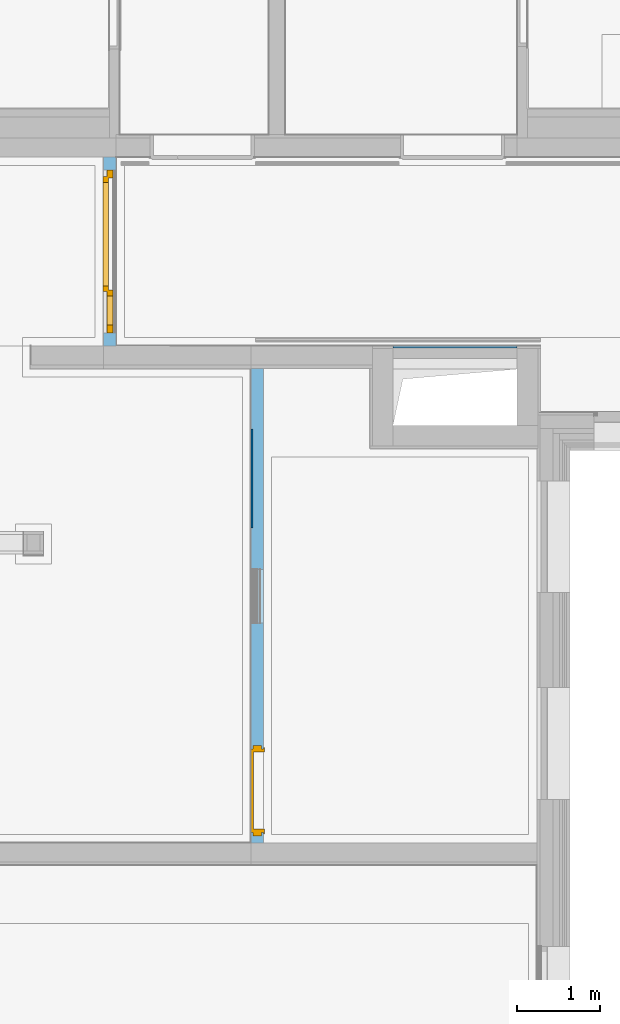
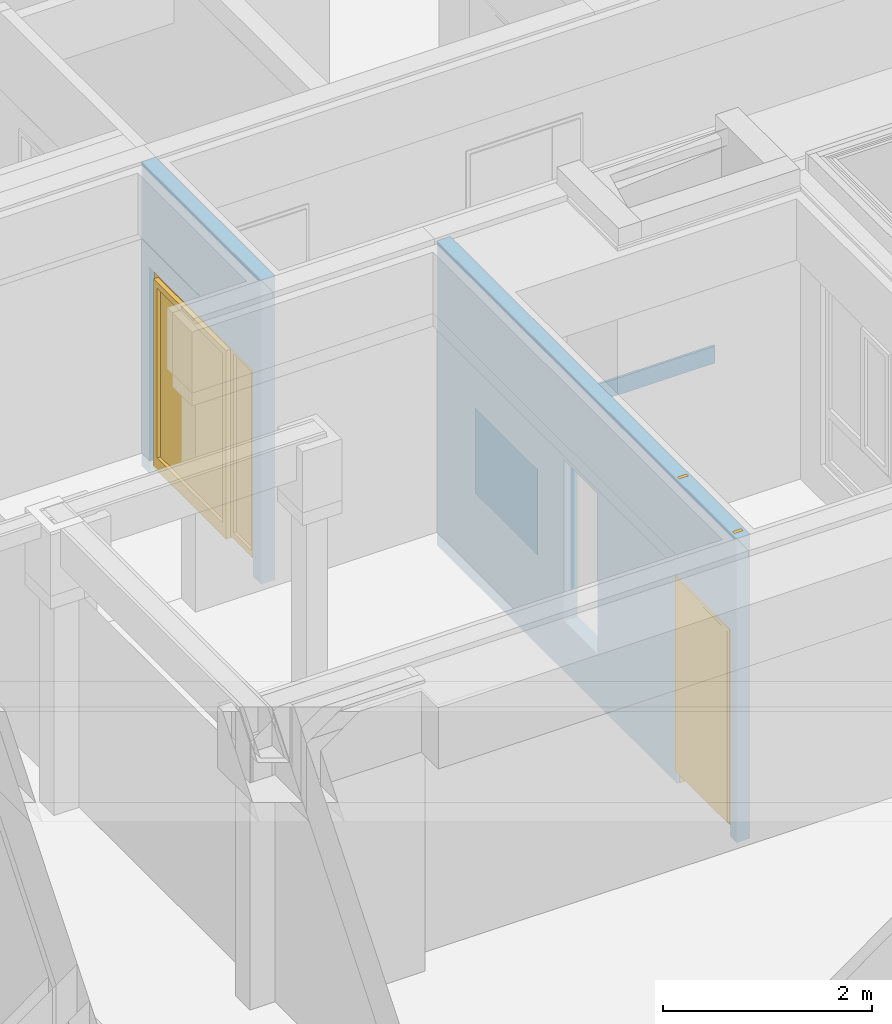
# One storey, part 123 of 222: 2 doors, 2 walls, 3 openings, plus 2 elements that do not belong to this part.
"""IFC4 building model written with IfcOpenShell, lengths in metres."""

from ifc_helpers import new_model, entity, si_unit, converted_unit, derived_unit, frame, frame_2d, origin, origin_with_axes, place, context, subcontext, project, spatial, polyline, rectangle, outline, extrude, closed_shell, open_shell, faceted_brep, surface_model, source, transform, mapped, material, type_object, element, fill, save


model = new_model("IFC4")

# Units and contexts
model_context = context("Model", 3, precision=1e-05, world=origin())
body_context = subcontext(model_context, "Body", "Model", "MODEL_VIEW")
ifc_project = project(units=[si_unit("LENGTHUNIT", "METRE"), si_unit("AREAUNIT", "SQUARE_METRE"), si_unit("VOLUMEUNIT", "CUBIC_METRE"), si_unit("MASSUNIT", "GRAM", prefix="KILO"), converted_unit("PLANEANGLEUNIT", "DEGREE", entity("IfcPlaneAngleMeasure", 0.0174532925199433), si_unit("PLANEANGLEUNIT", "RADIAN"), dimensions=[0, 0, 0, 0, 0, 0, 0]), derived_unit("THERMALTRANSMITTANCEUNIT", [(si_unit("POWERUNIT", "WATT"), 1), (si_unit("THERMODYNAMICTEMPERATUREUNIT", "KELVIN"), -1), (si_unit("LENGTHUNIT", "METRE"), -2)]), derived_unit("VOLUMETRICFLOWRATEUNIT", [(si_unit("LENGTHUNIT", "METRE"), 3), (converted_unit("TIMEUNIT", "hour", entity("IfcTimeMeasure", 3600.0), si_unit("TIMEUNIT", "SECOND"), dimensions=[0, 0, 1, 0, 0, 0, 0]), -1), (si_unit("LENGTHUNIT", "METRE"), -1)])], contexts=[model_context])

# Site, building, storey
site_placement = place(None, origin())
site = spatial("IfcSite", under=ifc_project, at=site_placement, Name="Psychiatrie Neubau Wunstorf", CompositionType="ELEMENT")
building_placement = place(site_placement, origin())
building = spatial("IfcBuilding", under=site, at=building_placement, Name="Neubau H2 Stationsgebäude", CompositionType="ELEMENT")
storey_placement = place(building_placement, frame((0.0, 0.0, 3.6)))
storey = spatial("IfcBuildingStorey", under=building, at=storey_placement, Name="H2 Ebene +1", CompositionType="ELEMENT", Elevation=3.6)

# Walls
wall_1_placement = place(storey_placement, frame((77.4, 22.8110009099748, 0.85)))
element("IfcWall", 1, at=wall_1_placement, inside=storey, Name="WV 1.1", context=body_context, shape_type="Brep", body=[
    faceted_brep([(0.0, 0.025, 0.0), (0.0, 0.0, 0.0), (1.5, 0.0, 0.0), (1.5, 0.025, 0.0), (0.0, 0.0, 0.2), (0.0, 0.025, 0.2), (1.5, 0.025, 0.2), (1.5, 0.0, 0.2)], [[[0, 1, 2, 3]], [[4, 5, 6, 7]], [[1, 0, 5, 4]], [[2, 1, 4, 7]], [[3, 2, 7, 6]], [[0, 3, 6, 5]]], orient=[[False], [False], [False], [False], [False], [False]]),
])
wall_2_placement = place(storey_placement, frame((75.684, 20.6340000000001, 1.05)))
element("IfcWall", 2, at=wall_2_placement, inside=storey, Name="WV 1.1", context=body_context, shape_type="Brep", body=[
    faceted_brep([(0.025, 1.2, 0.0), (0.0, 1.2, 0.0), (0.0, 0.0, 0.0), (0.025, 0.0, 0.0), (0.0, 1.2, 1.0), (0.025, 1.2, 1.0), (0.025, 0.0, 1.0), (0.0, 0.0, 1.0)], [[[0, 1, 2, 3]], [[4, 5, 6, 7]], [[1, 0, 5, 4]], [[2, 1, 4, 7]], [[3, 2, 7, 6]], [[0, 3, 6, 5]]], orient=[[False], [False], [False], [False], [False], [False]]),
])

# Wall, openings, door
ifc_material_1 = material(Name="WI-LB")
wall_3_placement = place(storey_placement, frame((75.684, 22.5640000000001, 0.0), z_axis=(0.0, 0.0, 1.0), x_axis=(0.0, -1.0, 0.0)))
wall_3 = element("IfcWall", 3, at=wall_3_placement, inside=storey, material=ifc_material_1, context=body_context, shape_type="SweptSolid", body=[
    extrude(rectangle(XDim=5.73150000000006, YDim=0.15, at=frame_2d((2.86575000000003, 0.075), x_axis=(1.0, 0.0))), origin_with_axes(), (0.0, 0.0, 1.0), 3.55),
])
opening_1_placement = place(wall_3_placement, frame((2.42720215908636, 0.0, 0.59), z_axis=(0.0, 1.0, 0.0), x_axis=(0.0, 0.0, 1.0)))
element("IfcOpeningElement", 4, at=opening_1_placement, cuts=wall_3, Name="Fensteröffnung", ObjectType="Opening", context=body_context, shape_type="SweptSolid", body=[
    extrude(outline(polyline([(1.88, 0.649942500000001), (1.88, 0.0), (0.0, 0.0), (0.0, 0.649942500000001), (1.88, 0.649942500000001)])), origin_with_axes(), (0.0, 0.0, 1.0), 0.15),
])
opening_2_placement = place(wall_3_placement, frame((4.59650000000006, 0.0, 0.0), z_axis=(0.0, 1.0, 0.0), x_axis=(0.0, 0.0, 1.0)))
opening_2 = element("IfcOpeningElement", 5, at=opening_2_placement, cuts=wall_3, Name="Türöffnung", ObjectType="Opening", context=body_context, shape_type="SweptSolid", body=[
    extrude(outline(polyline([(2.41, 1.01), (2.41, 0.0), (0.0, 0.0), (0.0, 1.01), (2.41, 1.01)])), origin_with_axes(), (0.0, 0.0, 1.0), 0.15),
])
ifc_material_2 = material(Name="TI-1F-UZ-ZK")
door_type = type_object("IfcDoorType", Name="SMT", OperationType="SINGLE_SWING_RIGHT", ParameterTakesPrecedence=False, PredefinedType="DOOR")
shared_shape_1 = source(origin_with_axes(), body_context, "Body", "Brep", [
    faceted_brep([(-0.03999999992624, 0.0250000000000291, 0.0), (0.0, 0.0250000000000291, 0.0), (0.0, 0.125000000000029, 0.0), (-0.03999999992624, 0.125000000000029, 0.0), (-0.03999999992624, 0.125000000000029, 3.55), (0.0, 0.125000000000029, 3.55), (0.0, 0.0250000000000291, 3.55), (-0.03999999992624, 0.0250000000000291, 3.55)], [[[0, 1, 2, 3]], [[4, 5, 6, 7]], [[3, 4, 7, 0]], [[2, 5, 4, 3]], [[1, 6, 5, 2]], [[0, 7, 6, 1]]], orient=[[False], [False], [False], [False], [False], [False]]),
    faceted_brep([(1.00999999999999, 0.0250000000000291, 0.0), (1.04999999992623, 0.0250000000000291, 0.0), (1.04999999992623, 0.125000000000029, 0.0), (1.00999999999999, 0.125000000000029, 0.0), (1.00999999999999, 0.125000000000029, 3.55), (1.04999999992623, 0.125000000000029, 3.55), (1.04999999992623, 0.0250000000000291, 3.55), (1.00999999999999, 0.0250000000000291, 3.55)], [[[0, 1, 2, 3]], [[4, 5, 6, 7]], [[3, 4, 7, 0]], [[2, 5, 4, 3]], [[1, 6, 5, 2]], [[0, 7, 6, 1]]], orient=[[False], [False], [False], [False], [False], [False]]),
    faceted_brep([(0.0, 0.0250000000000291, 2.41), (1.00999999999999, 0.0250000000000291, 2.41), (1.00999999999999, 0.125000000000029, 2.41), (0.0, 0.125000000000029, 2.41), (0.0, 0.125000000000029, 2.45), (1.00999999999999, 0.125000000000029, 2.45), (1.00999999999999, 0.0250000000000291, 2.45), (0.0, 0.0250000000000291, 2.45)], [[[0, 1, 2, 3]], [[4, 5, 6, 7]], [[3, 4, 7, 0]], [[2, 5, 4, 3]], [[1, 6, 5, 2]], [[0, 7, 6, 1]]], orient=[[False], [False], [False], [False], [False], [False]]),
])
shared_shape_2 = source(origin_with_axes(), body_context, "Body", "Brep", [
    faceted_brep([(0.0, -0.0149999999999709, 2.41), (0.0399999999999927, -0.0149999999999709, 2.41), (0.0399999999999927, -0.0149999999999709, 0.15), (0.0, -0.0149999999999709, 0.15), (0.0, 0.165000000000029, 0.15), (0.0399999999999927, 0.165000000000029, 0.15), (0.0399999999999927, 0.165000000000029, 2.41), (0.0, 0.165000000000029, 2.41)], [[[0, 1, 2, 3]], [[4, 5, 6, 7]], [[3, 4, 7, 0]], [[2, 5, 4, 3]], [[1, 6, 5, 2]], [[0, 7, 6, 1]]], orient=[[False], [False], [False], [False], [False], [False]]),
    faceted_brep([(0.0, -0.0149999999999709, 2.425), (0.0, -0.0149999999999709, 0.15), (-0.0150000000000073, -0.0149999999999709, 0.15), (-0.0150000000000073, -0.0149999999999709, 2.425), (0.0, 0.0, 0.15), (0.0, 0.0, 2.425), (-0.0150000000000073, 0.0, 2.425), (-0.0150000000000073, 0.0, 0.15)], [[[0, 1, 2, 3]], [[4, 5, 6, 7]], [[1, 0, 5, 4]], [[2, 1, 4, 7]], [[3, 2, 7, 6]], [[0, 3, 6, 5]]], orient=[[False], [False], [False], [False], [False], [False]]),
    faceted_brep([(0.0, 0.150000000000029, 2.425), (0.0, 0.150000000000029, 0.15), (-0.0150000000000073, 0.150000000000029, 0.15), (-0.0150000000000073, 0.150000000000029, 2.425), (0.0, 0.165000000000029, 0.15), (0.0, 0.165000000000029, 2.425), (-0.0150000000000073, 0.165000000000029, 2.425), (-0.0150000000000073, 0.165000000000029, 0.15)], [[[0, 1, 2, 3]], [[4, 5, 6, 7]], [[1, 0, 5, 4]], [[2, 1, 4, 7]], [[3, 2, 7, 6]], [[0, 3, 6, 5]]], orient=[[False], [False], [False], [False], [False], [False]]),
    faceted_brep([(0.969999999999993, -0.0149999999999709, 2.41), (1.00999999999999, -0.0149999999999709, 2.41), (1.00999999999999, -0.0149999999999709, 0.15), (0.969999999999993, -0.0149999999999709, 0.15), (0.969999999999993, 0.165000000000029, 0.15), (1.00999999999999, 0.165000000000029, 0.15), (1.00999999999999, 0.165000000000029, 2.41), (0.969999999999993, 0.165000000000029, 2.41)], [[[0, 1, 2, 3]], [[4, 5, 6, 7]], [[3, 4, 7, 0]], [[2, 5, 4, 3]], [[1, 6, 5, 2]], [[0, 7, 6, 1]]], orient=[[False], [False], [False], [False], [False], [False]]),
    faceted_brep([(1.00999999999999, -0.0149999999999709, 2.425), (1.02499999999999, -0.0149999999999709, 2.425), (1.02499999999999, -0.0149999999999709, 0.15), (1.00999999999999, -0.0149999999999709, 0.15), (1.00999999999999, 0.0, 0.15), (1.02499999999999, 0.0, 0.15), (1.02499999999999, 0.0, 2.425), (1.00999999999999, 0.0, 2.425)], [[[0, 1, 2, 3]], [[4, 5, 6, 7]], [[3, 4, 7, 0]], [[2, 5, 4, 3]], [[1, 6, 5, 2]], [[0, 7, 6, 1]]], orient=[[False], [False], [False], [False], [False], [False]]),
    faceted_brep([(1.00999999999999, 0.150000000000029, 2.425), (1.02499999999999, 0.150000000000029, 2.425), (1.02499999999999, 0.150000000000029, 0.15), (1.00999999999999, 0.150000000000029, 0.15), (1.00999999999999, 0.165000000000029, 0.15), (1.02499999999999, 0.165000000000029, 0.15), (1.02499999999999, 0.165000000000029, 2.425), (1.00999999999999, 0.165000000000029, 2.425)], [[[0, 1, 2, 3]], [[4, 5, 6, 7]], [[3, 4, 7, 0]], [[2, 5, 4, 3]], [[1, 6, 5, 2]], [[0, 7, 6, 1]]], orient=[[False], [False], [False], [False], [False], [False]]),
    faceted_brep([(0.0399999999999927, -0.0149999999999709, 2.41), (0.969999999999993, -0.0149999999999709, 2.41), (0.969999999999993, -0.0149999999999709, 2.37), (0.0399999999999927, -0.0149999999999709, 2.37), (0.0399999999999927, 0.165000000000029, 2.37), (0.969999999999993, 0.165000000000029, 2.37), (0.969999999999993, 0.165000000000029, 2.41), (0.0399999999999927, 0.165000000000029, 2.41)], [[[0, 1, 2, 3]], [[4, 5, 6, 7]], [[3, 4, 7, 0]], [[2, 5, 4, 3]], [[1, 6, 5, 2]], [[0, 7, 6, 1]]], orient=[[False], [False], [False], [False], [False], [False]]),
    faceted_brep([(0.0, -0.0149999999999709, 2.425), (1.00999999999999, -0.0149999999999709, 2.425), (1.00999999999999, -0.0149999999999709, 2.41), (0.0, -0.0149999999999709, 2.41), (0.0, 0.0, 2.41), (1.00999999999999, 0.0, 2.41), (1.00999999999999, 0.0, 2.425), (0.0, 0.0, 2.425)], [[[0, 1, 2, 3]], [[4, 5, 6, 7]], [[3, 4, 7, 0]], [[2, 5, 4, 3]], [[1, 6, 5, 2]], [[0, 7, 6, 1]]], orient=[[False], [False], [False], [False], [False], [False]]),
    faceted_brep([(0.0, 0.150000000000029, 2.425), (1.00999999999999, 0.150000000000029, 2.425), (1.00999999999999, 0.150000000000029, 2.41), (0.0, 0.150000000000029, 2.41), (0.0, 0.165000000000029, 2.41), (1.00999999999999, 0.165000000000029, 2.41), (1.00999999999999, 0.165000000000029, 2.425), (0.0, 0.165000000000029, 2.425)], [[[0, 1, 2, 3]], [[4, 5, 6, 7]], [[3, 4, 7, 0]], [[2, 5, 4, 3]], [[1, 6, 5, 2]], [[0, 7, 6, 1]]], orient=[[False], [False], [False], [False], [False], [False]]),
    faceted_brep([(0.0249999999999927, 0.116000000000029, 2.385), (0.984999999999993, 0.116000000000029, 2.385), (0.984999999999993, 0.116000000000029, 0.15), (0.0249999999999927, 0.116000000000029, 0.15), (0.0249999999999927, 0.166000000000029, 0.15), (0.984999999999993, 0.166000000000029, 0.15), (0.984999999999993, 0.166000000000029, 2.385), (0.0249999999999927, 0.166000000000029, 2.385)], [[[0, 1, 2, 3]], [[4, 5, 6, 7]], [[3, 4, 7, 0]], [[2, 5, 4, 3]], [[1, 6, 5, 2]], [[0, 7, 6, 1]]], orient=[[False], [False], [False], [False], [False], [False]]),
])
door_1_placement = place(opening_2_placement, frame((0.0, 1.01, 0.15), z_axis=(1.0, 0.0, 0.0), x_axis=(0.0, -1.0, 0.0)))
door_1 = element("IfcDoor", 6, at=door_1_placement, inside=storey, type_object=door_type, material=ifc_material_2, Name="SMT", OverallHeight=2.41, OverallWidth=1.01, context=body_context, shape_type="MappedRepresentation", body=[
    mapped(shared_shape_1, transform((0.0, 0.0, 0.0), x_axis=(1.0, 0.0, 0.0), y_axis=(0.0, 1.0, 0.0), z_axis=(0.0, 0.0, 1.0), scale=1.0)),
    mapped(shared_shape_2, transform((0.0, 0.0, 0.0), x_axis=(1.0, 0.0, 0.0), y_axis=(0.0, 1.0, 0.0), z_axis=(0.0, 0.0, 1.0), scale=1.0)),
])
fill(opening_2, door_1)

# Wall, opening, door
ifc_material_3 = material(Name="WI-LB")
wall_4_placement = place(storey_placement, frame((74.055, 22.836, 0.0), z_axis=(0.0, 0.0, 1.0), x_axis=(0.0, 1.0, 0.0)))
wall_4 = element("IfcWall", 7, at=wall_4_placement, inside=storey, material=ifc_material_3, context=body_context, shape_type="SweptSolid", body=[
    extrude(rectangle(XDim=2.28149999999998, YDim=0.155, at=frame_2d((1.14074999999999, 0.0775), x_axis=(1.0, 0.0))), origin_with_axes(), (0.0, 0.0, 1.0), 3.55),
])
opening_3_placement = place(wall_4_placement, frame((0.155000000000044, 0.0, 0.0), z_axis=(0.0, 1.0, 0.0), x_axis=(0.0, 0.0, 1.0)))
opening_3 = element("IfcOpeningElement", 8, at=opening_3_placement, cuts=wall_4, Name="Türöffnung", ObjectType="Opening", context=body_context, shape_type="SweptSolid", body=[
    extrude(outline(polyline([(2.41, 1.9715), (2.41, 0.0), (0.0, 0.0), (0.0, 1.9715), (2.41, 1.9715)])), origin_with_axes(), (0.0, 0.0, 1.0), 0.155),
])
ifc_material_4 = material(Name="TI-2F-AG-D-O")
shared_shape_3 = source(origin_with_axes(), body_context, "Body", "Brep", [
    faceted_brep([(2.09899999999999, -0.0149999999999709, 0.0), (2.09899999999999, 0.0850000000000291, 0.0), (1.99899999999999, 0.0850000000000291, 0.0), (1.99899999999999, -0.0149999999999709, 0.0), (2.09899999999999, 0.0850000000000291, 3.55), (2.09899999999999, -0.0149999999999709, 3.55), (1.99899999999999, -0.0149999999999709, 3.55), (1.99899999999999, 0.0850000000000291, 3.55)], [[[0, 1, 2, 3]], [[4, 5, 6, 7]], [[1, 0, 5, 4]], [[2, 1, 4, 7]], [[3, 2, 7, 6]], [[0, 3, 6, 5]]], orient=[[False], [False], [False], [False], [False], [False]]),
    faceted_brep([(-0.0275000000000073, -0.0149999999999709, 0.0), (-0.0275000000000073, 0.0850000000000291, 0.0), (-0.127500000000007, 0.0850000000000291, 0.0), (-0.127500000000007, -0.0149999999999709, 0.0), (-0.0275000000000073, 0.0850000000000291, 3.55), (-0.0275000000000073, -0.0149999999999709, 3.55), (-0.127500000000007, -0.0149999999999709, 3.55), (-0.127500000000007, 0.0850000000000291, 3.55)], [[[0, 1, 2, 3]], [[4, 5, 6, 7]], [[1, 0, 5, 4]], [[2, 1, 4, 7]], [[3, 2, 7, 6]], [[0, 3, 6, 5]]], orient=[[False], [False], [False], [False], [False], [False]]),
    faceted_brep([(1.99899999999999, -0.0149999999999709, 2.4375), (1.99899999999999, 0.0850000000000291, 2.4375), (-0.0275000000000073, 0.0850000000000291, 2.4375), (-0.0275000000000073, -0.0149999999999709, 2.4375), (1.99899999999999, 0.0850000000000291, 2.5375), (1.99899999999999, -0.0149999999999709, 2.5375), (-0.0275000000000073, -0.0149999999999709, 2.5375), (-0.0275000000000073, 0.0850000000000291, 2.5375)], [[[0, 1, 2, 3]], [[4, 5, 6, 7]], [[1, 0, 5, 4]], [[2, 1, 4, 7]], [[3, 2, 7, 6]], [[0, 3, 6, 5]]], orient=[[False], [False], [False], [False], [False], [False]]),
])
shared_shape_4 = source(origin_with_axes(), body_context, "Body", "SurfaceModel", [
    surface_model("IfcShellBasedSurfaceModel", [(1.97149999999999, 0.0, 2.41), (1.97149999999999, 0.0, 0.15), (1.87149999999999, 0.0, 0.15), (1.87149999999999, 0.0, 2.41), (1.97149999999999, 0.0700000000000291, 0.15), (1.97149999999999, 0.0700000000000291, 2.41), (1.87149999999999, 0.0700000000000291, 2.41), (1.87149999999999, 0.0700000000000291, 0.15)], [closed_shell([[[0, 1, 2, 3]], [[4, 5, 6, 7]], [[1, 0, 5, 4]], [[2, 1, 4, 7]], [[3, 2, 7, 6]], [[0, 3, 6, 5]]], orient=[[False], [False], [False], [False], [False], [False]])]),
    surface_model("IfcShellBasedSurfaceModel", [(0.0999999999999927, 0.0, 2.41), (0.0999999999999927, 0.0, 0.15), (0.0, 0.0, 0.15), (0.0, 0.0, 2.41), (0.0999999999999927, 0.0700000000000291, 0.15), (0.0999999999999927, 0.0700000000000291, 2.41), (0.0, 0.0700000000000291, 2.41), (0.0, 0.0700000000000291, 0.15)], [closed_shell([[[0, 1, 2, 3]], [[4, 5, 6, 7]], [[1, 0, 5, 4]], [[2, 1, 4, 7]], [[3, 2, 7, 6]], [[0, 3, 6, 5]]], orient=[[False], [False], [False], [False], [False], [False]])]),
    surface_model("IfcShellBasedSurfaceModel", [(1.87149999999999, 0.0, 2.41), (1.87149999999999, 0.0, 2.31), (0.0999999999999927, 0.0, 2.31), (0.0999999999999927, 0.0, 2.41), (1.87149999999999, 0.0700000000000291, 2.31), (1.87149999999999, 0.0700000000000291, 2.41), (0.0999999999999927, 0.0700000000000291, 2.41), (0.0999999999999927, 0.0700000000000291, 2.31)], [closed_shell([[[0, 1, 2, 3]], [[4, 5, 6, 7]], [[1, 0, 5, 4]], [[2, 1, 4, 7]], [[3, 2, 7, 6]], [[0, 3, 6, 5]]], orient=[[False], [False], [False], [False], [False], [False]])]),
    surface_model("IfcShellBasedSurfaceModel", [(0.521499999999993, 0.0, 2.31), (0.521499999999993, 0.0, 0.15), (0.451499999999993, 0.0, 0.15), (0.451499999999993, 0.0, 2.31), (0.521499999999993, 0.0700000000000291, 0.15), (0.521499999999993, 0.0700000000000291, 2.31), (0.451499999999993, 0.0700000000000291, 2.31), (0.451499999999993, 0.0700000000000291, 0.15)], [closed_shell([[[0, 1, 2, 3]], [[4, 5, 6, 7]], [[1, 0, 5, 4]], [[2, 1, 4, 7]], [[3, 2, 7, 6]], [[0, 3, 6, 5]]], orient=[[False], [False], [False], [False], [False], [False]])]),
    surface_model("IfcShellBasedSurfaceModel", [(1.89149999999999, 0.0500000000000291, 2.33), (1.89149999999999, 0.0500000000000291, 0.13), (1.82149999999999, 0.0500000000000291, 0.13), (1.82149999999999, 0.0500000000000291, 2.33), (1.89149999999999, 0.120000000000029, 0.13), (1.89149999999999, 0.120000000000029, 2.33), (1.82149999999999, 0.120000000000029, 2.33), (1.82149999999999, 0.120000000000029, 0.13)], [closed_shell([[[0, 1, 2, 3]], [[4, 5, 6, 7]], [[1, 0, 5, 4]], [[2, 1, 4, 7]], [[3, 2, 7, 6]], [[0, 3, 6, 5]]], orient=[[False], [False], [False], [False], [False], [False]])]),
    surface_model("IfcShellBasedSurfaceModel", [(0.571499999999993, 0.0500000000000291, 2.33), (0.571499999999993, 0.0500000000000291, 0.13), (0.501499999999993, 0.0500000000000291, 0.13), (0.501499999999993, 0.0500000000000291, 2.33), (0.571499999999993, 0.120000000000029, 0.13), (0.571499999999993, 0.120000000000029, 2.33), (0.501499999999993, 0.120000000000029, 2.33), (0.501499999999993, 0.120000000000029, 0.13)], [closed_shell([[[0, 1, 2, 3]], [[4, 5, 6, 7]], [[1, 0, 5, 4]], [[2, 1, 4, 7]], [[3, 2, 7, 6]], [[0, 3, 6, 5]]], orient=[[False], [False], [False], [False], [False], [False]])]),
    surface_model("IfcShellBasedSurfaceModel", [(1.82149999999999, 0.0500000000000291, 0.28), (1.82149999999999, 0.0500000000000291, 0.13), (0.571499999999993, 0.0500000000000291, 0.13), (0.571499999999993, 0.0500000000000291, 0.28), (1.82149999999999, 0.120000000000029, 0.13), (1.82149999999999, 0.120000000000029, 0.28), (0.571499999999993, 0.120000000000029, 0.28), (0.571499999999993, 0.120000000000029, 0.13)], [closed_shell([[[0, 1, 2, 3]], [[4, 5, 6, 7]], [[1, 0, 5, 4]], [[2, 1, 4, 7]], [[3, 2, 7, 6]], [[0, 3, 6, 5]]], orient=[[False], [False], [False], [False], [False], [False]])]),
    surface_model("IfcShellBasedSurfaceModel", [(1.82149999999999, 0.0500000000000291, 2.33), (1.82149999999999, 0.0500000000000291, 2.26), (0.571499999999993, 0.0500000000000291, 2.26), (0.571499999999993, 0.0500000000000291, 2.33), (1.82149999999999, 0.120000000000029, 2.26), (1.82149999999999, 0.120000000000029, 2.33), (0.571499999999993, 0.120000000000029, 2.33), (0.571499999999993, 0.120000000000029, 2.26)], [closed_shell([[[0, 1, 2, 3]], [[4, 5, 6, 7]], [[1, 0, 5, 4]], [[2, 1, 4, 7]], [[3, 2, 7, 6]], [[0, 3, 6, 5]]], orient=[[False], [False], [False], [False], [False], [False]])]),
    surface_model("IfcShellBasedSurfaceModel", [(0.451499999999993, 0.0, 0.22), (0.451499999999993, 0.0, 0.15), (0.0999999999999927, 0.0, 0.15), (0.0999999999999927, 0.0, 0.22), (0.451499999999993, 0.0700000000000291, 0.15), (0.451499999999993, 0.0700000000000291, 0.22), (0.0999999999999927, 0.0700000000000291, 0.22), (0.0999999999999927, 0.0700000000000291, 0.15)], [closed_shell([[[0, 1, 2, 3]], [[4, 5, 6, 7]], [[1, 0, 5, 4]], [[2, 1, 4, 7]], [[3, 2, 7, 6]], [[0, 3, 6, 5]]], orient=[[False], [False], [False], [False], [False], [False]])]),
    surface_model("IfcShellBasedSurfaceModel", [(1.82149999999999, 0.0850000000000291, 0.28), (0.571499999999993, 0.0850000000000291, 0.28), (0.571499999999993, 0.0850000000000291, 2.26), (1.82149999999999, 0.0850000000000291, 2.26)], [open_shell([[[0, 1, 2, 3]]], orient=[[False]])]),
    surface_model("IfcShellBasedSurfaceModel", [(0.451499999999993, 0.0350000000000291, 0.22), (0.0999999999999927, 0.0350000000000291, 0.22), (0.0999999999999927, 0.0350000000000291, 2.31), (0.451499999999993, 0.0350000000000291, 2.31)], [open_shell([[[0, 1, 2, 3]]], orient=[[False]])]),
])
door_2_placement = place(opening_3_placement, frame((0.0, 0.0, 0.04), z_axis=(1.0, 0.0, 0.0), x_axis=(0.0, 1.0, 0.0)))
door_2 = element("IfcDoor", 9, at=door_2_placement, inside=storey, material=ifc_material_4, Name="SMT", OperationType="USERDEFINED", OverallHeight=2.41, OverallWidth=1.9715, PredefinedType="DOOR", context=body_context, shape_type="MappedRepresentation", body=[
    mapped(shared_shape_3, transform((0.0, 0.0, 0.0), x_axis=(1.0, 0.0, 0.0), y_axis=(0.0, 1.0, 0.0), z_axis=(0.0, 0.0, 1.0), scale=1.0)),
    mapped(shared_shape_4, transform((0.0, 0.0, 0.0), x_axis=(1.0, 0.0, 0.0), y_axis=(0.0, 1.0, 0.0), z_axis=(0.0, 0.0, 1.0), scale=1.0)),
])
fill(opening_3, door_2)

save(model, "model.ifc")
